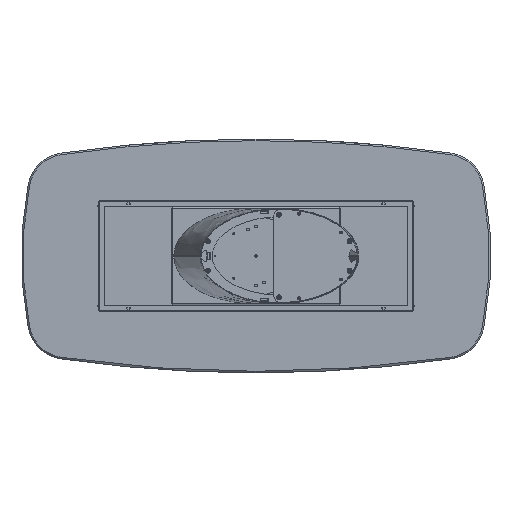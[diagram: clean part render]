
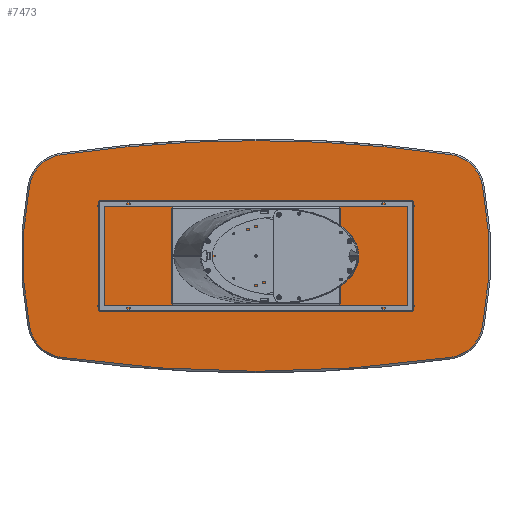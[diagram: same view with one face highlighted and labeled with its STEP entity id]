
A CAD part, front view. The second image highlights one B-rep face of the part: STEP entity #7473.
In plain terms, the highlighted planar face has unit normal (0, -1, 0).
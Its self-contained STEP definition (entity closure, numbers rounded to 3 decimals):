
#58 = CARTESIAN_POINT ( 'NONE',  ( 705., 0., 0. ) ) ;
#93 = DIRECTION ( 'NONE',  ( 0., 0., 1. ) ) ;
#115 = CIRCLE ( 'NONE', #11825, 192. ) ;
#371 = CARTESIAN_POINT ( 'NONE',  ( 0., 0., 587. ) ) ;
#655 = EDGE_CURVE ( 'NONE', #21535, #17016, #19071, .T. ) ;
#716 = AXIS2_PLACEMENT_3D ( 'NONE', #11197, #26270, #28333 ) ;
#1321 = DIRECTION ( 'NONE',  ( 0., 0., 1. ) ) ;
#1887 = DIRECTION ( 'NONE',  ( 0., -1., 0. ) ) ;
#2274 = PLANE ( 'NONE',  #716 ) ;
#2913 = CARTESIAN_POINT ( 'NONE',  ( -705., 0., 0. ) ) ;
#3016 = EDGE_CURVE ( 'NONE', #24837, #16402, #22635, .T. ) ;
#3132 = CARTESIAN_POINT ( 'NONE',  ( -963.472, 0., -325.885 ) ) ;
#3652 = DIRECTION ( 'NONE',  ( 0., -1., 0. ) ) ;
#4930 = DIRECTION ( 'NONE',  ( 0., 0., 1. ) ) ;
#5243 = CARTESIAN_POINT ( 'NONE',  ( 990.878, 0., -515.919 ) ) ;
#5684 = CARTESIAN_POINT ( 'NONE',  ( 990.878, 0., 515.919 ) ) ;
#6262 = AXIS2_PLACEMENT_3D ( 'NONE', #2913, #9789, #20904 ) ;
#6340 = CIRCLE ( 'NONE', #27370, 1892. ) ;
#6383 = CIRCLE ( 'NONE', #22715, 6942. ) ;
#6482 = EDGE_CURVE ( 'NONE', #24554, #6889, #23250, .T. ) ;
#6889 = VERTEX_POINT ( 'NONE', #371 ) ;
#6987 = CARTESIAN_POINT ( 'NONE',  ( -963.472, 0., 325.885 ) ) ;
#7473 = ADVANCED_FACE ( 'NONE', ( #22304 ), #2274, .F. ) ;
#8032 = CARTESIAN_POINT ( 'NONE',  ( 963.472, 0., 325.885 ) ) ;
#8075 = ORIENTED_EDGE ( 'NONE', *, *, #15148, .T. ) ;
#8704 = VERTEX_POINT ( 'NONE', #11535 ) ;
#8737 = CARTESIAN_POINT ( 'NONE',  ( 0., 0., 6355. ) ) ;
#9279 = DIRECTION ( 'NONE',  ( 0., 0., 1. ) ) ;
#9789 = DIRECTION ( 'NONE',  ( 0., -1., 0. ) ) ;
#10479 = ORIENTED_EDGE ( 'NONE', *, *, #27824, .T. ) ;
#11197 = CARTESIAN_POINT ( 'NONE',  ( -352.5, 0., 3177.5 ) ) ;
#11240 = ORIENTED_EDGE ( 'NONE', *, *, #18648, .T. ) ;
#11242 = DIRECTION ( 'NONE',  ( 0., 0., 1. ) ) ;
#11535 = CARTESIAN_POINT ( 'NONE',  ( 1151.911, 0., -362.691 ) ) ;
#11681 = DIRECTION ( 'NONE',  ( 0., -1., 0. ) ) ;
#11825 = AXIS2_PLACEMENT_3D ( 'NONE', #8032, #3652, #1321 ) ;
#12066 = VERTEX_POINT ( 'NONE', #18435 ) ;
#12390 = ORIENTED_EDGE ( 'NONE', *, *, #28253, .T. ) ;
#12882 = DIRECTION ( 'NONE',  ( 0., 0., 1. ) ) ;
#13023 = CARTESIAN_POINT ( 'NONE',  ( 0., 0., -6355. ) ) ;
#13587 = CARTESIAN_POINT ( 'NONE',  ( -990.878, 0., 515.919 ) ) ;
#14572 = ORIENTED_EDGE ( 'NONE', *, *, #20119, .T. ) ;
#15040 = VERTEX_POINT ( 'NONE', #5243 ) ;
#15148 = EDGE_CURVE ( 'NONE', #8704, #12066, #16558, .T. ) ;
#15719 = DIRECTION ( 'NONE',  ( 0., -1., 0. ) ) ;
#16219 = DIRECTION ( 'NONE',  ( 0., -1., 0. ) ) ;
#16402 = VERTEX_POINT ( 'NONE', #18121 ) ;
#16558 = CIRCLE ( 'NONE', #6262, 1892. ) ;
#16871 = DIRECTION ( 'NONE',  ( 0., -1., 0. ) ) ;
#17016 = VERTEX_POINT ( 'NONE', #21262 ) ;
#17523 = DIRECTION ( 'NONE',  ( 0., -1., 0. ) ) ;
#18052 = CARTESIAN_POINT ( 'NONE',  ( 0., 0., -6355. ) ) ;
#18121 = CARTESIAN_POINT ( 'NONE',  ( -1151.911, 0., 362.691 ) ) ;
#18435 = CARTESIAN_POINT ( 'NONE',  ( 1151.911, 0., 362.691 ) ) ;
#18648 = EDGE_CURVE ( 'NONE', #15040, #8704, #24559, .T. ) ;
#19071 = CIRCLE ( 'NONE', #26076, 192. ) ;
#19081 = EDGE_LOOP ( 'NONE', ( #24627, #10479, #11240, #8075, #19184, #28587, #14572, #20787, #12390 ) ) ;
#19184 = ORIENTED_EDGE ( 'NONE', *, *, #22719, .T. ) ;
#20093 = DIRECTION ( 'NONE',  ( 0., 0., 1. ) ) ;
#20119 = EDGE_CURVE ( 'NONE', #6889, #24837, #20889, .T. ) ;
#20787 = ORIENTED_EDGE ( 'NONE', *, *, #3016, .T. ) ;
#20889 = CIRCLE ( 'NONE', #28377, 6942. ) ;
#20904 = DIRECTION ( 'NONE',  ( 0., 0., 1. ) ) ;
#21262 = CARTESIAN_POINT ( 'NONE',  ( -990.878, 0., -515.919 ) ) ;
#21535 = VERTEX_POINT ( 'NONE', #23820 ) ;
#22304 = FACE_OUTER_BOUND ( 'NONE', #19081, .T. ) ;
#22635 = CIRCLE ( 'NONE', #23124, 192. ) ;
#22715 = AXIS2_PLACEMENT_3D ( 'NONE', #8737, #17523, #93 ) ;
#22719 = EDGE_CURVE ( 'NONE', #12066, #24554, #115, .T. ) ;
#23124 = AXIS2_PLACEMENT_3D ( 'NONE', #6987, #16219, #11242 ) ;
#23159 = DIRECTION ( 'NONE',  ( 0., 0., 1. ) ) ;
#23250 = CIRCLE ( 'NONE', #24186, 6942. ) ;
#23820 = CARTESIAN_POINT ( 'NONE',  ( -1151.911, 0., -362.691 ) ) ;
#24186 = AXIS2_PLACEMENT_3D ( 'NONE', #18052, #15719, #9279 ) ;
#24554 = VERTEX_POINT ( 'NONE', #5684 ) ;
#24559 = CIRCLE ( 'NONE', #27372, 192. ) ;
#24627 = ORIENTED_EDGE ( 'NONE', *, *, #655, .T. ) ;
#24837 = VERTEX_POINT ( 'NONE', #13587 ) ;
#26076 = AXIS2_PLACEMENT_3D ( 'NONE', #3132, #16871, #23159 ) ;
#26270 = DIRECTION ( 'NONE',  ( 0., 1., 0. ) ) ;
#27173 = CARTESIAN_POINT ( 'NONE',  ( 963.472, 0., -325.885 ) ) ;
#27370 = AXIS2_PLACEMENT_3D ( 'NONE', #58, #28875, #20093 ) ;
#27372 = AXIS2_PLACEMENT_3D ( 'NONE', #27173, #11681, #4930 ) ;
#27824 = EDGE_CURVE ( 'NONE', #17016, #15040, #6383, .T. ) ;
#28253 = EDGE_CURVE ( 'NONE', #16402, #21535, #6340, .T. ) ;
#28333 = DIRECTION ( 'NONE',  ( 0., 0., 1. ) ) ;
#28377 = AXIS2_PLACEMENT_3D ( 'NONE', #13023, #1887, #12882 ) ;
#28587 = ORIENTED_EDGE ( 'NONE', *, *, #6482, .T. ) ;
#28875 = DIRECTION ( 'NONE',  ( 0., -1., 0. ) ) ;
